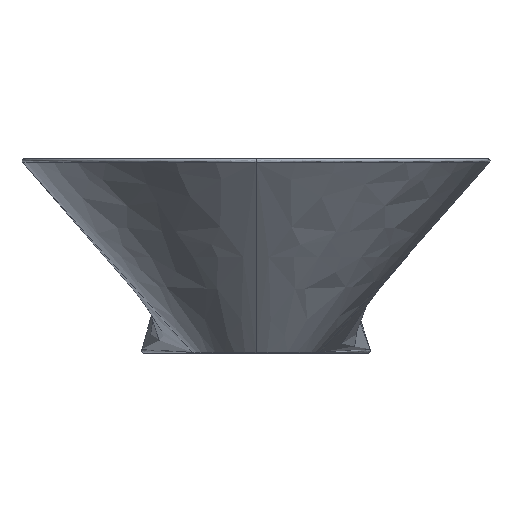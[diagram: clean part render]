
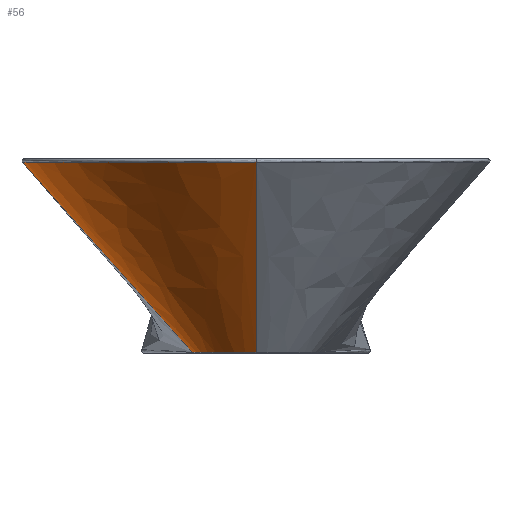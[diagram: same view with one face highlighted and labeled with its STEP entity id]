
A CAD part, front view. The second image highlights one B-rep face of the part: STEP entity #56.
In plain terms, the highlighted free-form (B-spline) face has degree [1, 2] with [2, 9] control points.
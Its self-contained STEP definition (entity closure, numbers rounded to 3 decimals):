
#56=ADVANCED_FACE('',(#260),#3049,.T.);
#260=FACE_OUTER_BOUND('',#464,.T.);
#464=EDGE_LOOP('',(#739,#740,#741,#742,#743));
#739=ORIENTED_EDGE('',*,*,#1743,.T.);
#740=ORIENTED_EDGE('',*,*,#1616,.F.);
#741=ORIENTED_EDGE('',*,*,#1742,.F.);
#742=ORIENTED_EDGE('',*,*,#1746,.F.);
#743=ORIENTED_EDGE('',*,*,#1747,.F.);
#1616=EDGE_CURVE('',#2669,#2714,#2467,.T.);
#1742=EDGE_CURVE('',#2747,#2669,#2268,.T.);
#1743=EDGE_CURVE('',#2748,#2714,#2269,.T.);
#1746=EDGE_CURVE('',#2752,#2747,#2272,.T.);
#1747=EDGE_CURVE('',#2748,#2752,#2504,.T.);
#2268=B_SPLINE_CURVE_WITH_KNOTS('',1,(#9612,#9613),.UNSPECIFIED.,.F.,.F.,
(2,2),(0.909,164.401),.UNSPECIFIED.);
#2269=B_SPLINE_CURVE_WITH_KNOTS('',1,(#9614,#9615),.UNSPECIFIED.,.F.,.F.,
(2,2),(0.894,164.401),.UNSPECIFIED.);
#2272=B_SPLINE_CURVE_WITH_KNOTS('',3,(#9620,#9621,#9622,#9623,#9624,#9625,
#9626,#9627,#9628,#9629,#9630,#9631),.UNSPECIFIED.,.F.,.F.,(4,1,1,1,1,1,
1,1,1,4),(0.,0.002,0.003,0.005,
0.007,0.008,0.01,0.012,
0.013,0.015),.UNSPECIFIED.);
#2467=TRIMMED_CURVE($,#2568,(#8398),(#8399),.T.,.CARTESIAN.);
#2504=TRIMMED_CURVE($,#2605,(#9633),(#9634),.T.,.CARTESIAN.);
#2568=CIRCLE('',#3288,149.643);
#2605=CIRCLE('',#3325,40.596);
#2669=VERTEX_POINT('',#8217);
#2714=VERTEX_POINT('',#8262);
#2747=VERTEX_POINT('',#8295);
#2748=VERTEX_POINT('',#8296);
#2752=VERTEX_POINT('',#8300);
#3049=(
BOUNDED_SURFACE()
B_SPLINE_SURFACE(1,2,((#7420,#7421,#7422,#7423,#7424,#7425,#7426,#7427,
#7428),(#7429,#7430,#7431,#7432,#7433,#7434,#7435,#7436,#7437)),
 .UNSPECIFIED.,.F.,.F.,.F.)
B_SPLINE_SURFACE_WITH_KNOTS((2,2),(3,2,2,2,3),(0.,167.757),(0.,
238.575,477.149,715.724,954.298),
 .UNSPECIFIED.)
GEOMETRIC_REPRESENTATION_ITEM()
RATIONAL_B_SPLINE_SURFACE(((1.,0.707,1.,0.707,1.,
0.707,1.,0.707,1.),(1.,0.707,1.,0.707,
1.,0.707,1.,0.707,1.)))
REPRESENTATION_ITEM('')
SURFACE()
);
#3288=AXIS2_PLACEMENT_3D($,#8397,#3486,#3487);
#3325=AXIS2_PLACEMENT_3D($,#9632,#3560,#3561);
#3486=DIRECTION('',(0.,0.,1.));
#3487=DIRECTION('',(-1.,0.,0.));
#3560=DIRECTION('',(0.,0.,-1.));
#3561=DIRECTION('',(0.,-1.,0.));
#7420=CARTESIAN_POINT('',(19424.315,1341.326,-4234.589));
#7421=CARTESIAN_POINT('',(19424.315,1301.326,-4234.589));
#7422=CARTESIAN_POINT('',(19384.315,1301.326,-4234.589));
#7423=CARTESIAN_POINT('',(19344.315,1301.326,-4234.589));
#7424=CARTESIAN_POINT('',(19344.315,1341.326,-4234.589));
#7425=CARTESIAN_POINT('',(19344.315,1381.326,-4234.589));
#7426=CARTESIAN_POINT('',(19384.315,1381.326,-4234.589));
#7427=CARTESIAN_POINT('',(19424.315,1381.326,-4234.589));
#7428=CARTESIAN_POINT('',(19424.315,1341.326,-4234.589));
#7429=CARTESIAN_POINT('',(19536.197,1341.326,-4109.589));
#7430=CARTESIAN_POINT('',(19536.197,1189.445,-4109.589));
#7431=CARTESIAN_POINT('',(19384.315,1189.445,-4109.589));
#7432=CARTESIAN_POINT('',(19232.434,1189.445,-4109.589));
#7433=CARTESIAN_POINT('',(19232.434,1341.326,-4109.589));
#7434=CARTESIAN_POINT('',(19232.434,1493.207,-4109.589));
#7435=CARTESIAN_POINT('',(19384.315,1493.207,-4109.589));
#7436=CARTESIAN_POINT('',(19536.197,1493.207,-4109.589));
#7437=CARTESIAN_POINT('',(19536.197,1341.326,-4109.589));
#8217=CARTESIAN_POINT('',(19234.672,1341.326,-4112.089));
#8262=CARTESIAN_POINT('',(19384.315,1191.683,-4112.089));
#8295=CARTESIAN_POINT('',(19343.709,1341.326,-4233.912));
#8296=CARTESIAN_POINT('',(19384.315,1300.73,-4233.923));
#8300=CARTESIAN_POINT('',(19343.719,1341.326,-4233.923));
#8397=CARTESIAN_POINT('',(19384.315,1341.326,-4112.089));
#8398=CARTESIAN_POINT('',(19234.672,1341.326,-4112.089));
#8399=CARTESIAN_POINT('',(19384.315,1191.683,-4112.089));
#9612=CARTESIAN_POINT('',(19343.709,1341.326,-4233.912));
#9613=CARTESIAN_POINT('',(19234.672,1341.326,-4112.089));
#9614=CARTESIAN_POINT('',(19384.315,1300.73,-4233.923));
#9615=CARTESIAN_POINT('',(19384.315,1191.683,-4112.089));
#9620=CARTESIAN_POINT('',(19343.719,1341.326,-4233.923));
#9621=CARTESIAN_POINT('',(19343.719,1341.326,-4233.922));
#9622=CARTESIAN_POINT('',(19343.718,1341.326,-4233.922));
#9623=CARTESIAN_POINT('',(19343.717,1341.326,-4233.92));
#9624=CARTESIAN_POINT('',(19343.716,1341.326,-4233.919));
#9625=CARTESIAN_POINT('',(19343.715,1341.326,-4233.918));
#9626=CARTESIAN_POINT('',(19343.714,1341.326,-4233.917));
#9627=CARTESIAN_POINT('',(19343.713,1341.326,-4233.916));
#9628=CARTESIAN_POINT('',(19343.712,1341.326,-4233.914));
#9629=CARTESIAN_POINT('',(19343.71,1341.326,-4233.913));
#9630=CARTESIAN_POINT('',(19343.71,1341.326,-4233.912));
#9631=CARTESIAN_POINT('',(19343.709,1341.326,-4233.912));
#9632=CARTESIAN_POINT('',(19384.315,1341.326,-4233.923));
#9633=CARTESIAN_POINT('',(19384.315,1300.73,-4233.923));
#9634=CARTESIAN_POINT('',(19343.719,1341.326,-4233.923));
